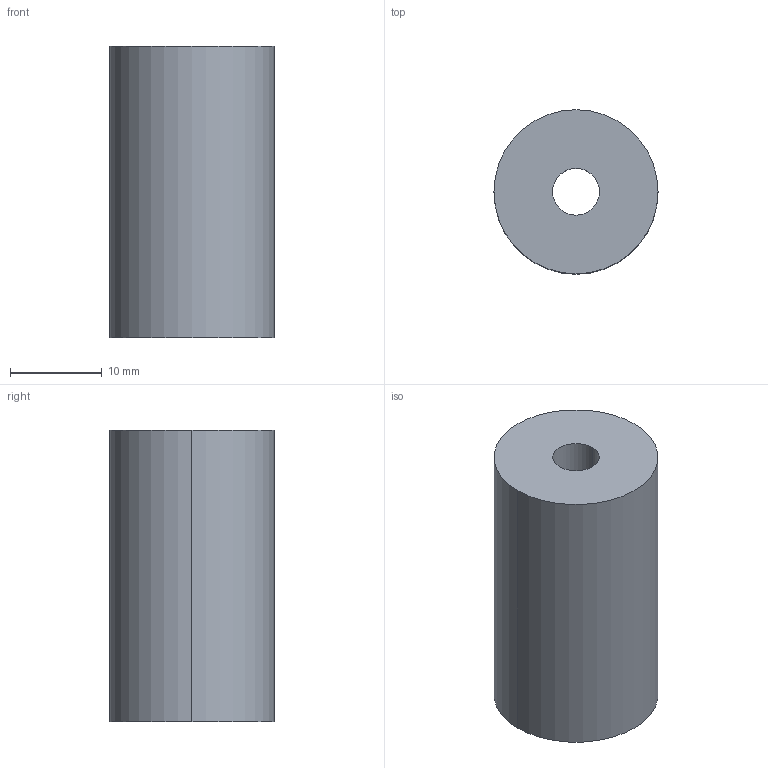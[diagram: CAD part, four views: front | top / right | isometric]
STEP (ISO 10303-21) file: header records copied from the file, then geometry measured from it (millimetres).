
FILE_DESCRIPTION (( 'STEP AP203' ), '1' );
FILE_NAME ('FDPCK-.5PULTRUD-ENDTHRD-1-4-20.step', '2019-09-11T18:20:57', ( 'ydmin' ), ( '' ), 'SwSTEP 2.0', 'SolidWorks 2017', '' );
FILE_SCHEMA (( 'CONFIG_CONTROL_DESIGN' ));
Length unit declared in the file: inch
Products named in the file (1): FDPCK-.5PULTRUD-ENDTHRD-1-4-20
Bounding box: 17.91 x 17.91 x 31.75 mm (x, y, z)
Volume: 5053 mm3; surface area: 3216.9 mm2
Topology: 1 solids, 1 shells, 10 faces, 20 edges, 12 vertices
Faces by surface type: cylinder 6, cone 2, plane 2
Entity records: 347 total; most frequent: DIRECTION 54, CARTESIAN_POINT 43, ORIENTED_EDGE 40, AXIS2_PLACEMENT_3D 23, EDGE_CURVE 20, VERTEX_POINT 12, EDGE_LOOP 12, CIRCLE 12
